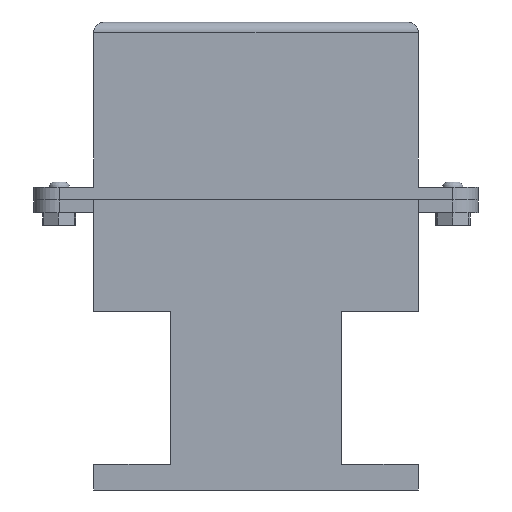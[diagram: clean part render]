
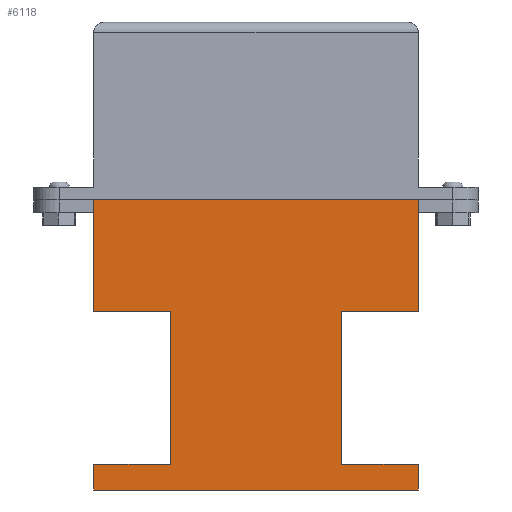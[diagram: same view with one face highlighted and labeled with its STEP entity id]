
A CAD part, left-side view. The second image highlights one B-rep face of the part: STEP entity #6118.
In plain terms, the highlighted planar face has unit normal (-1, 0, 0).
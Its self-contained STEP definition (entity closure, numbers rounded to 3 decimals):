
#646=FACE_OUTER_BOUND('',#997,.T.);
#997=EDGE_LOOP('',(#5290,#5291,#5292,#5293,#5294,#5295,#5296,#5297,#5298,
#5299,#5300,#5301));
#1533=LINE('',#10358,#2186);
#1548=LINE('',#10394,#2201);
#1554=LINE('',#10406,#2207);
#1564=LINE('',#10422,#2217);
#1569=LINE('',#10433,#2222);
#1572=LINE('',#10438,#2225);
#1606=LINE('',#10521,#2259);
#1607=LINE('',#10524,#2260);
#1609=LINE('',#10527,#2262);
#1610=LINE('',#10529,#2263);
#1612=LINE('',#10533,#2265);
#1613=LINE('',#10535,#2266);
#2186=VECTOR('',#7360,10.);
#2201=VECTOR('',#7385,10.);
#2207=VECTOR('',#7395,10.);
#2217=VECTOR('',#7407,10.);
#2222=VECTOR('',#7416,10.);
#2225=VECTOR('',#7421,10.);
#2259=VECTOR('',#7517,10.);
#2260=VECTOR('',#7520,10.);
#2262=VECTOR('',#7524,10.);
#2263=VECTOR('',#7527,10.);
#2265=VECTOR('',#7531,10.);
#2266=VECTOR('',#7534,10.);
#2815=VERTEX_POINT('',#10355);
#2816=VERTEX_POINT('',#10357);
#2831=VERTEX_POINT('',#10391);
#2832=VERTEX_POINT('',#10393);
#2835=VERTEX_POINT('',#10403);
#2836=VERTEX_POINT('',#10405);
#2844=VERTEX_POINT('',#10430);
#2845=VERTEX_POINT('',#10432);
#2846=VERTEX_POINT('',#10436);
#2864=VERTEX_POINT('',#10519);
#2865=VERTEX_POINT('',#10523);
#2866=VERTEX_POINT('',#10531);
#3614=EDGE_CURVE('',#2816,#2815,#1533,.T.);
#3632=EDGE_CURVE('',#2832,#2831,#1548,.T.);
#3638=EDGE_CURVE('',#2836,#2835,#1554,.T.);
#3648=EDGE_CURVE('',#2816,#2835,#1564,.T.);
#3653=EDGE_CURVE('',#2844,#2845,#1569,.T.);
#3656=EDGE_CURVE('',#2844,#2846,#1572,.T.);
#3696=EDGE_CURVE('',#2815,#2864,#1606,.T.);
#3697=EDGE_CURVE('',#2865,#2832,#1607,.T.);
#3699=EDGE_CURVE('',#2864,#2865,#1609,.T.);
#3700=EDGE_CURVE('',#2846,#2836,#1610,.T.);
#3702=EDGE_CURVE('',#2831,#2866,#1612,.T.);
#3703=EDGE_CURVE('',#2845,#2866,#1613,.T.);
#5290=ORIENTED_EDGE('',*,*,#3699,.T.);
#5291=ORIENTED_EDGE('',*,*,#3697,.T.);
#5292=ORIENTED_EDGE('',*,*,#3632,.T.);
#5293=ORIENTED_EDGE('',*,*,#3702,.T.);
#5294=ORIENTED_EDGE('',*,*,#3703,.F.);
#5295=ORIENTED_EDGE('',*,*,#3653,.F.);
#5296=ORIENTED_EDGE('',*,*,#3656,.T.);
#5297=ORIENTED_EDGE('',*,*,#3700,.T.);
#5298=ORIENTED_EDGE('',*,*,#3638,.T.);
#5299=ORIENTED_EDGE('',*,*,#3648,.F.);
#5300=ORIENTED_EDGE('',*,*,#3614,.T.);
#5301=ORIENTED_EDGE('',*,*,#3696,.T.);
#5765=PLANE('',#6434);
#6118=ADVANCED_FACE('',(#646),#5765,.T.);
#6434=AXIS2_PLACEMENT_3D('',#10534,#7532,#7533);
#7360=DIRECTION('',(0.,1.,0.));
#7385=DIRECTION('',(0.,1.,0.));
#7395=DIRECTION('',(0.,-1.,0.));
#7407=DIRECTION('',(0.,0.,-1.));
#7416=DIRECTION('',(0.,0.,-1.));
#7421=DIRECTION('',(0.,1.,0.));
#7517=DIRECTION('',(0.,0.,-1.));
#7520=DIRECTION('',(0.,0.,-1.));
#7524=DIRECTION('',(0.,-1.,0.));
#7527=DIRECTION('',(0.,0.,1.));
#7531=DIRECTION('',(0.,0.,-1.));
#7532=DIRECTION('center_axis',(-1.,0.,0.));
#7533=DIRECTION('ref_axis',(0.,1.,0.));
#7534=DIRECTION('',(0.,1.,0.));
#10355=CARTESIAN_POINT('',(-10.,127.,0.));
#10357=CARTESIAN_POINT('',(-10.,0.,0.));
#10358=CARTESIAN_POINT('',(-10.,0.,0.));
#10391=CARTESIAN_POINT('',(-10.,127.,-103.5));
#10393=CARTESIAN_POINT('',(-10.,97.,-103.5));
#10394=CARTESIAN_POINT('',(-10.,48.5,-103.5));
#10403=CARTESIAN_POINT('',(-10.,0.,-43.5));
#10405=CARTESIAN_POINT('',(-10.,30.,-43.5));
#10406=CARTESIAN_POINT('',(-10.,15.,-43.5));
#10422=CARTESIAN_POINT('',(-10.,0.,0.));
#10430=CARTESIAN_POINT('',(-10.,0.,-103.5));
#10432=CARTESIAN_POINT('',(-10.,0.,-113.5));
#10433=CARTESIAN_POINT('',(-10.,0.,0.));
#10436=CARTESIAN_POINT('',(-10.,30.,-103.5));
#10438=CARTESIAN_POINT('',(-10.,0.,-103.5));
#10519=CARTESIAN_POINT('',(-10.,127.,-43.5));
#10521=CARTESIAN_POINT('',(-10.,127.,0.));
#10523=CARTESIAN_POINT('',(-10.,97.,-43.5));
#10524=CARTESIAN_POINT('',(-10.,97.,-21.75));
#10527=CARTESIAN_POINT('',(-10.,63.5,-43.5));
#10529=CARTESIAN_POINT('',(-10.,30.,-51.75));
#10531=CARTESIAN_POINT('',(-10.,127.,-113.5));
#10533=CARTESIAN_POINT('',(-10.,127.,0.));
#10534=CARTESIAN_POINT('Origin',(-10.,0.,0.));
#10535=CARTESIAN_POINT('',(-10.,0.,-113.5));
